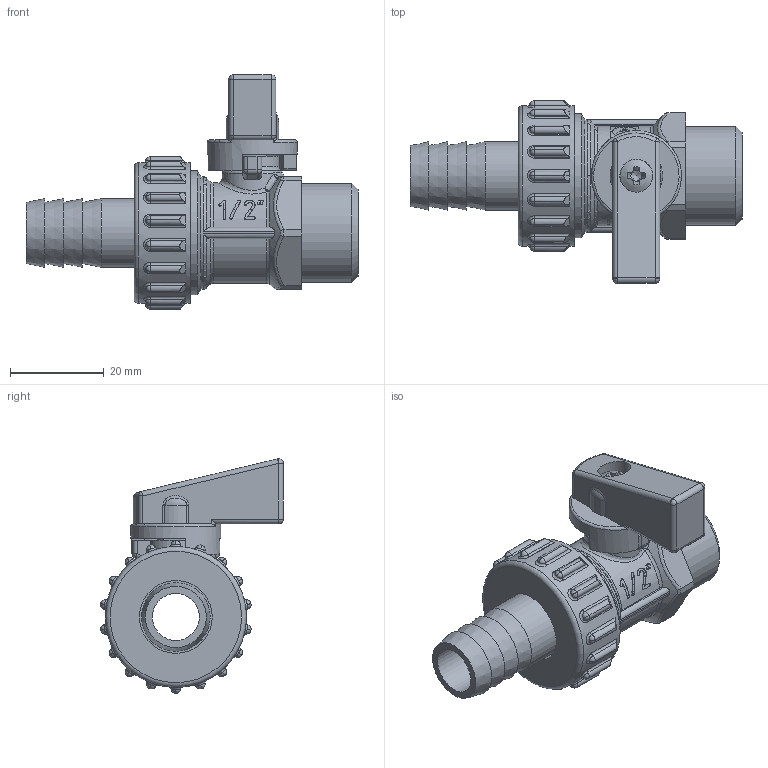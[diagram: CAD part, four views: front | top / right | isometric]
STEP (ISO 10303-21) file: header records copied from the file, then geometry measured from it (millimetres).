
FILE_DESCRIPTION(('TFLEX Exchange Step'),'2;1');
FILE_NAME('Ball valve drain DN15, 1_2 VT.430.N Valtec.stp', '2023-09-12T15:23:48+03:00',('denis'),('Unknown organisation'),'TFLEX Exchange 2023.0','T-FLEX CAD','Unknown authorisation');
FILE_SCHEMA( ('AUTOMOTIVE_DESIGN { 1 0 10303 214 1 1 1 1 }') );
Length unit declared in the file: millimetre
Products named in the file (1): Nodes
Bounding box: 70.7 x 38.92 x 49.95 mm (x, y, z)
Volume: 24553.2 mm3; surface area: 15891.2 mm2
Topology: 7 solids, 7 shells, 488 faces, 1221 edges, 756 vertices
Faces by surface type: cylinder 176, bspline 99, plane 86, sphere 52, cone 47, torus 28
Full cylindrical faces by diameter (mm): 2.35 x1, 3.5 x1, 4.5 x1, 7 x2, 8 x2, 10 x2, 11 x1, 12.5 x1, 13.9 x1, 14.6 x1, 15 x1, 15.5 x1, 17.9 x2, 18 x1, 19.2 x1, 21 x1, 21.7 x1, 23.6 x1, 24 x1, 24.1 x1, 26.4 x1, 30 x1
Entity records: 31213 total; most frequent: CARTESIAN_POINT 20540, ORIENTED_EDGE 2390, DIRECTION 1909, EDGE_CURVE 1195, AXIS2_PLACEMENT_3D 792, VERTEX_POINT 756, EDGE_LOOP 535, FACE_BOUND 535
